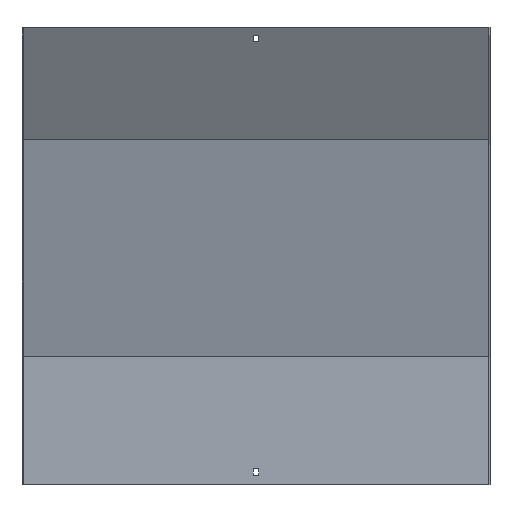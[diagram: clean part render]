
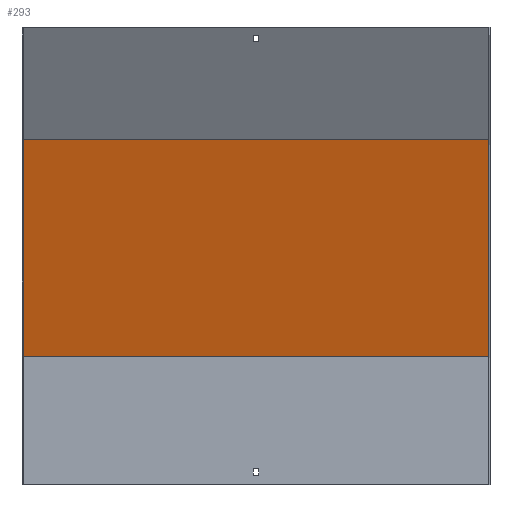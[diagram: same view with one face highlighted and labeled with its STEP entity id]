
A CAD part, front view. The second image highlights one B-rep face of the part: STEP entity #293.
In plain terms, the highlighted planar face has unit normal (0, -0.966, -0.259).
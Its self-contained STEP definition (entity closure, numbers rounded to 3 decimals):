
#46 = VERTEX_POINT ( 'NONE', #653 ) ;
#49 = EDGE_CURVE ( 'NONE', #184, #46, #398, .T. ) ;
#74 = CARTESIAN_POINT ( 'NONE',  ( 300., -56.524, 445.43 ) ) ;
#175 = EDGE_CURVE ( 'NONE', #374, #46, #472, .T. ) ;
#183 = CARTESIAN_POINT ( 'NONE',  ( 301.5, 17.87, 167.788 ) ) ;
#184 = VERTEX_POINT ( 'NONE', #747 ) ;
#186 = DIRECTION ( 'NONE',  ( 0., -0.966, -0.259 ) ) ;
#257 = CARTESIAN_POINT ( 'NONE',  ( -300., 58.62, 15.707 ) ) ;
#273 = DIRECTION ( 'NONE',  ( 0., -0.259, 0.966 ) ) ;
#286 = CARTESIAN_POINT ( 'NONE',  ( 300., 58.62, 15.707 ) ) ;
#293 = ADVANCED_FACE ( 'NONE', ( #429 ), #769, .T. ) ;
#296 = ORIENTED_EDGE ( 'NONE', *, *, #49, .F. ) ;
#339 = VERTEX_POINT ( 'NONE', #633 ) ;
#341 = CARTESIAN_POINT ( 'NONE',  ( 301.5, -56.524, 445.43 ) ) ;
#352 = VECTOR ( 'NONE', #522, 1000. ) ;
#374 = VERTEX_POINT ( 'NONE', #74 ) ;
#384 = CARTESIAN_POINT ( 'NONE',  ( 301.5, 18.5, 165.436 ) ) ;
#398 = LINE ( 'NONE', #257, #352 ) ;
#422 = VECTOR ( 'NONE', #273, 1000. ) ;
#429 = FACE_OUTER_BOUND ( 'NONE', #649, .T. ) ;
#444 = DIRECTION ( 'NONE',  ( -1., 0., 0. ) ) ;
#472 = LINE ( 'NONE', #341, #710 ) ;
#485 = DIRECTION ( 'NONE',  ( -1., 0., 0. ) ) ;
#489 = ORIENTED_EDGE ( 'NONE', *, *, #750, .T. ) ;
#522 = DIRECTION ( 'NONE',  ( 0., -0.259, 0.966 ) ) ;
#633 = CARTESIAN_POINT ( 'NONE',  ( 300., 18.5, 165.436 ) ) ;
#644 = VECTOR ( 'NONE', #444, 1000. ) ;
#645 = LINE ( 'NONE', #384, #644 ) ;
#649 = EDGE_LOOP ( 'NONE', ( #296, #758, #489, #828 ) ) ;
#653 = CARTESIAN_POINT ( 'NONE',  ( -300., -56.524, 445.43 ) ) ;
#701 = DIRECTION ( 'NONE',  ( 0., 0.259, -0.966 ) ) ;
#710 = VECTOR ( 'NONE', #485, 1000. ) ;
#733 = LINE ( 'NONE', #286, #422 ) ;
#747 = CARTESIAN_POINT ( 'NONE',  ( -300., 18.5, 165.436 ) ) ;
#750 = EDGE_CURVE ( 'NONE', #339, #374, #733, .T. ) ;
#758 = ORIENTED_EDGE ( 'NONE', *, *, #785, .F. ) ;
#769 = PLANE ( 'NONE',  #780 ) ;
#780 = AXIS2_PLACEMENT_3D ( 'NONE', #183, #186, #701 ) ;
#785 = EDGE_CURVE ( 'NONE', #339, #184, #645, .T. ) ;
#828 = ORIENTED_EDGE ( 'NONE', *, *, #175, .T. ) ;
